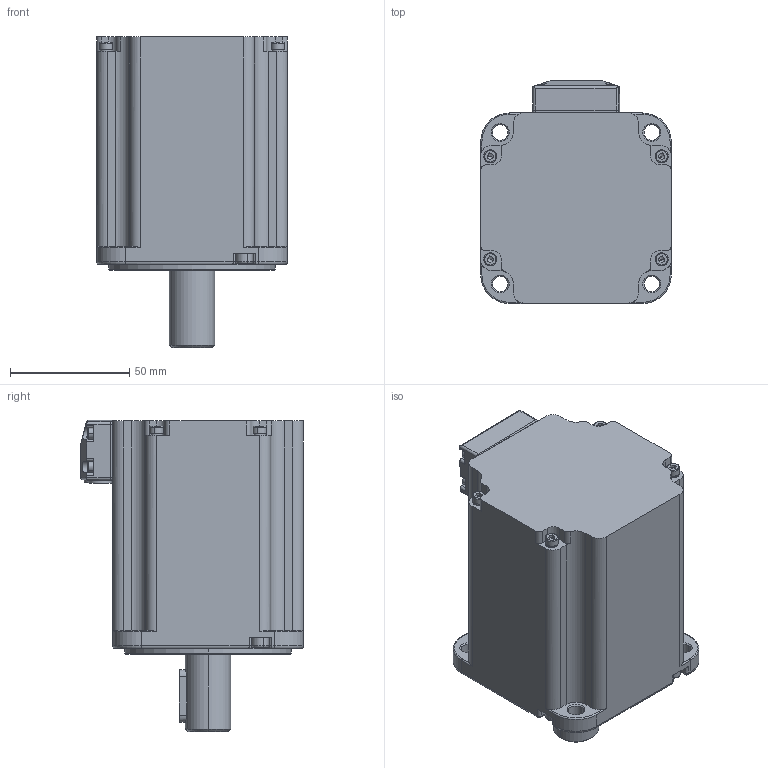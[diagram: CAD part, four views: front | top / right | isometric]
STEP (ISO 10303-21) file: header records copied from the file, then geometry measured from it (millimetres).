
FILE_DESCRIPTION (( 'STEP AP203' ), '1' );
FILE_NAME ('SMS080-10030D10M0NL .STEP', '2022-02-09T07:34:32', ( '' ), ( '' ), 'SwSTEP 2.0', 'SolidWorks 2018', '' );
FILE_SCHEMA (( 'CONFIG_CONTROL_DESIGN' ));
Length unit declared in the file: millimetre
Products named in the file (1): SMS080-10030D10M0NL 
Bounding box: 80 x 93.5 x 130.76 mm (x, y, z)
Volume: 559951.6 mm3; surface area: 54628.5 mm2
Topology: 2 solids, 21 shells, 1015 faces, 2498 edges, 1539 vertices
Faces by surface type: cylinder 403, plane 367, torus 181, cone 56, bspline 8
Entity records: 31053 total; most frequent: CARTESIAN_POINT 6619, DIRECTION 5422, ORIENTED_EDGE 4944, EDGE_CURVE 2472, AXIS2_PLACEMENT_3D 2130, VERTEX_POINT 1539, VECTOR 1162, LINE 1162
